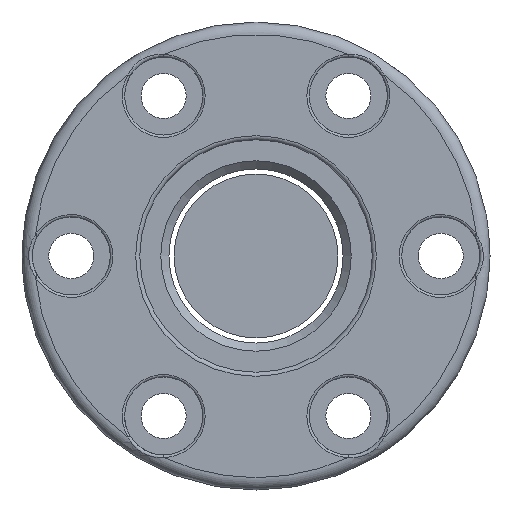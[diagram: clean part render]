
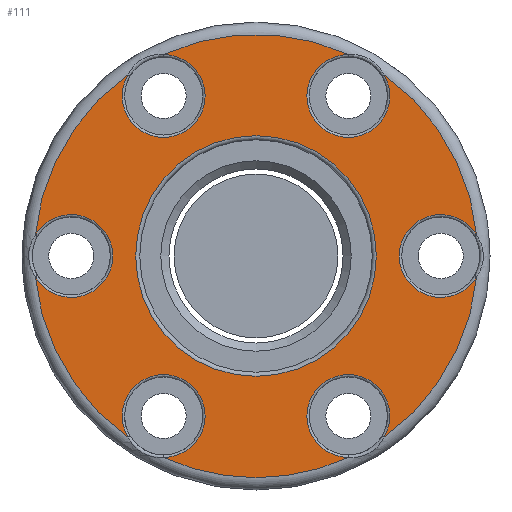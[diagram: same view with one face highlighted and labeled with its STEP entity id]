
A CAD part, front view. The second image highlights one B-rep face of the part: STEP entity #111.
In plain terms, the highlighted planar face has unit normal (0, -1, 0).
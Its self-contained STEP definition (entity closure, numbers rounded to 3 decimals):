
#83=PLANE('',#785);
#111=ADVANCED_FACE('',(#184,#185),#83,.T.);
#184=FACE_BOUND('',#276,.T.);
#185=FACE_BOUND('',#277,.T.);
#276=EDGE_LOOP('',(#380));
#277=EDGE_LOOP('',(#381,#382,#383,#384,#385,#386,#387,#388,#389,#390,#391,
#392));
#380=ORIENTED_EDGE('',*,*,#612,.T.);
#381=ORIENTED_EDGE('',*,*,#613,.T.);
#382=ORIENTED_EDGE('',*,*,#614,.T.);
#383=ORIENTED_EDGE('',*,*,#615,.T.);
#384=ORIENTED_EDGE('',*,*,#616,.T.);
#385=ORIENTED_EDGE('',*,*,#617,.T.);
#386=ORIENTED_EDGE('',*,*,#618,.T.);
#387=ORIENTED_EDGE('',*,*,#619,.T.);
#388=ORIENTED_EDGE('',*,*,#620,.T.);
#389=ORIENTED_EDGE('',*,*,#621,.T.);
#390=ORIENTED_EDGE('',*,*,#622,.T.);
#391=ORIENTED_EDGE('',*,*,#623,.T.);
#392=ORIENTED_EDGE('',*,*,#624,.T.);
#546=VERTEX_POINT('',#1144);
#547=VERTEX_POINT('',#1146);
#548=VERTEX_POINT('',#1147);
#549=VERTEX_POINT('',#1149);
#550=VERTEX_POINT('',#1151);
#551=VERTEX_POINT('',#1153);
#552=VERTEX_POINT('',#1155);
#553=VERTEX_POINT('',#1157);
#554=VERTEX_POINT('',#1159);
#555=VERTEX_POINT('',#1161);
#556=VERTEX_POINT('',#1163);
#557=VERTEX_POINT('',#1165);
#558=VERTEX_POINT('',#1167);
#612=EDGE_CURVE('',#546,#546,#696,.T.);
#613=EDGE_CURVE('',#547,#548,#697,.T.);
#614=EDGE_CURVE('',#548,#549,#698,.T.);
#615=EDGE_CURVE('',#549,#550,#699,.T.);
#616=EDGE_CURVE('',#550,#551,#700,.T.);
#617=EDGE_CURVE('',#551,#552,#701,.T.);
#618=EDGE_CURVE('',#552,#553,#702,.T.);
#619=EDGE_CURVE('',#553,#554,#703,.T.);
#620=EDGE_CURVE('',#554,#555,#704,.T.);
#621=EDGE_CURVE('',#555,#556,#705,.T.);
#622=EDGE_CURVE('',#556,#557,#706,.T.);
#623=EDGE_CURVE('',#557,#558,#707,.T.);
#624=EDGE_CURVE('',#558,#547,#708,.T.);
#696=CIRCLE('',#772,14.65);
#697=CIRCLE('',#773,27.);
#698=CIRCLE('',#774,5.05);
#699=CIRCLE('',#775,27.);
#700=CIRCLE('',#776,5.05);
#701=CIRCLE('',#777,27.);
#702=CIRCLE('',#778,5.05);
#703=CIRCLE('',#779,27.);
#704=CIRCLE('',#780,5.05);
#705=CIRCLE('',#781,27.);
#706=CIRCLE('',#782,5.05);
#707=CIRCLE('',#783,27.);
#708=CIRCLE('',#784,5.05);
#772=AXIS2_PLACEMENT_3D('',#1143,#901,#902);
#773=AXIS2_PLACEMENT_3D('',#1145,#903,#904);
#774=AXIS2_PLACEMENT_3D('',#1148,#905,#906);
#775=AXIS2_PLACEMENT_3D('',#1150,#907,#908);
#776=AXIS2_PLACEMENT_3D('',#1152,#909,#910);
#777=AXIS2_PLACEMENT_3D('',#1154,#911,#912);
#778=AXIS2_PLACEMENT_3D('',#1156,#913,#914);
#779=AXIS2_PLACEMENT_3D('',#1158,#915,#916);
#780=AXIS2_PLACEMENT_3D('',#1160,#917,#918);
#781=AXIS2_PLACEMENT_3D('',#1162,#919,#920);
#782=AXIS2_PLACEMENT_3D('',#1164,#921,#922);
#783=AXIS2_PLACEMENT_3D('',#1166,#923,#924);
#784=AXIS2_PLACEMENT_3D('',#1168,#925,#926);
#785=AXIS2_PLACEMENT_3D('',#1169,#927,#928);
#901=DIRECTION('',(0.,1.,0.));
#902=DIRECTION('',(0.,0.,-1.));
#903=DIRECTION('',(0.,-1.,0.));
#904=DIRECTION('',(0.,0.,-1.));
#905=DIRECTION('',(0.,1.,0.));
#906=DIRECTION('',(0.,0.,-1.));
#907=DIRECTION('',(0.,-1.,0.));
#908=DIRECTION('',(0.,0.,-1.));
#909=DIRECTION('',(0.,1.,0.));
#910=DIRECTION('',(0.,0.,-1.));
#911=DIRECTION('',(0.,-1.,0.));
#912=DIRECTION('',(0.,0.,-1.));
#913=DIRECTION('',(0.,1.,0.));
#914=DIRECTION('',(0.,0.,-1.));
#915=DIRECTION('',(0.,-1.,0.));
#916=DIRECTION('',(0.,0.,-1.));
#917=DIRECTION('',(0.,1.,0.));
#918=DIRECTION('',(0.,0.,-1.));
#919=DIRECTION('',(0.,-1.,0.));
#920=DIRECTION('',(0.,0.,-1.));
#921=DIRECTION('',(0.,1.,0.));
#922=DIRECTION('',(0.,0.,-1.));
#923=DIRECTION('',(0.,-1.,0.));
#924=DIRECTION('',(0.,0.,-1.));
#925=DIRECTION('',(0.,1.,0.));
#926=DIRECTION('',(0.,0.,-1.));
#927=DIRECTION('',(0.,-1.,0.));
#928=DIRECTION('',(0.,0.,-1.));
#1143=CARTESIAN_POINT('',(0.,0.,0.));
#1144=CARTESIAN_POINT('',(0.,0.,-14.65));
#1145=CARTESIAN_POINT('',(0.,0.,0.));
#1146=CARTESIAN_POINT('',(-26.883,0.,-2.508));
#1147=CARTESIAN_POINT('',(-15.614,0.,-22.028));
#1148=CARTESIAN_POINT('',(-11.25,0.,-19.486));
#1149=CARTESIAN_POINT('',(-11.27,0.,-24.536));
#1150=CARTESIAN_POINT('',(0.,0.,0.));
#1151=CARTESIAN_POINT('',(11.27,0.,-24.536));
#1152=CARTESIAN_POINT('',(11.25,0.,-19.486));
#1153=CARTESIAN_POINT('',(15.614,0.,-22.028));
#1154=CARTESIAN_POINT('',(0.,0.,0.));
#1155=CARTESIAN_POINT('',(26.883,0.,-2.508));
#1156=CARTESIAN_POINT('',(22.5,0.,0.));
#1157=CARTESIAN_POINT('',(26.883,0.,2.508));
#1158=CARTESIAN_POINT('',(0.,0.,0.));
#1159=CARTESIAN_POINT('',(15.614,0.,22.028));
#1160=CARTESIAN_POINT('',(11.25,0.,19.486));
#1161=CARTESIAN_POINT('',(11.27,0.,24.536));
#1162=CARTESIAN_POINT('',(0.,0.,0.));
#1163=CARTESIAN_POINT('',(-11.27,0.,24.536));
#1164=CARTESIAN_POINT('',(-11.25,0.,19.486));
#1165=CARTESIAN_POINT('',(-15.614,0.,22.028));
#1166=CARTESIAN_POINT('',(0.,0.,0.));
#1167=CARTESIAN_POINT('',(-26.883,0.,2.508));
#1168=CARTESIAN_POINT('',(-22.5,0.,0.));
#1169=CARTESIAN_POINT('',(0.,0.,0.));
